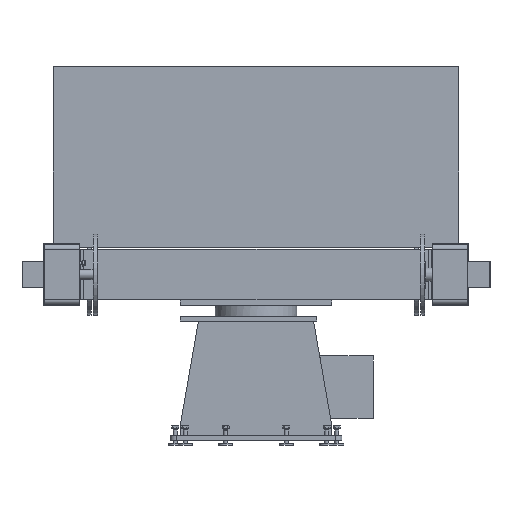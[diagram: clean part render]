
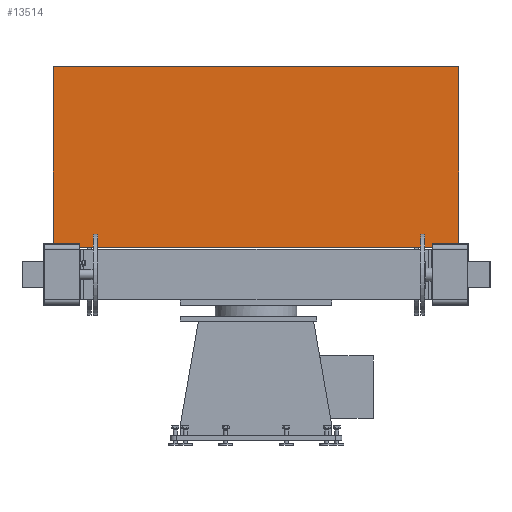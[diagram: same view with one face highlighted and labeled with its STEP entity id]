
A CAD part, front view. The second image highlights one B-rep face of the part: STEP entity #13514.
In plain terms, the highlighted planar face has unit normal (0, -1, 0) as drawn and (-1, 0, 0) by its records, which use the part's own axes.
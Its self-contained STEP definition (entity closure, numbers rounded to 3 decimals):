
#13097=CARTESIAN_POINT('',(-41.,-957.5,5.));
#13098=VERTEX_POINT('',#13097);
#13107=CARTESIAN_POINT('',(-41.,957.5,5.));
#13108=VERTEX_POINT('',#13107);
#13109=CARTESIAN_POINT('',(-41.,957.5,5.));
#13110=DIRECTION('',(0.0,-1.0,0.0));
#13111=VECTOR('',#13110,1915.0);
#13112=LINE('',#13109,#13111);
#13113=EDGE_CURVE('',#13108,#13098,#13112,.T.);
#13139=CARTESIAN_POINT('',(-41.,1002.5,899.));
#13140=VERTEX_POINT('',#13139);
#13155=CARTESIAN_POINT('',(-41.,1002.5,5.));
#13156=VERTEX_POINT('',#13155);
#13163=CARTESIAN_POINT('',(-41.,1002.5,899.));
#13164=DIRECTION('',(0.0,0.0,-1.0));
#13165=VECTOR('',#13164,894.);
#13166=LINE('',#13163,#13165);
#13167=EDGE_CURVE('',#13140,#13156,#13166,.T.);
#13221=CARTESIAN_POINT('',(-41.,957.5,5.));
#13222=DIRECTION('',(0.0,1.0,0.0));
#13223=VECTOR('',#13222,45.0);
#13224=LINE('',#13221,#13223);
#13225=EDGE_CURVE('',#13108,#13156,#13224,.T.);
#13456=CARTESIAN_POINT('',(-41.,-1002.5,899.));
#13457=VERTEX_POINT('',#13456);
#13466=CARTESIAN_POINT('',(-41.,-1002.5,5.));
#13467=VERTEX_POINT('',#13466);
#13468=CARTESIAN_POINT('',(-41.,-1002.5,5.));
#13469=DIRECTION('',(0.0,0.0,1.0));
#13470=VECTOR('',#13469,894.0);
#13471=LINE('',#13468,#13470);
#13472=EDGE_CURVE('',#13467,#13457,#13471,.T.);
#13491=CARTESIAN_POINT('',(-41.,-996.5,5.));
#13492=DIRECTION('',(-1.0,0.0,0.0));
#13493=DIRECTION('',(0.0,0.0,1.0));
#13494=AXIS2_PLACEMENT_3D('',#13491,#13492,#13493);
#13495=PLANE('',#13494);
#13496=CARTESIAN_POINT('',(-41.,1002.5,899.));
#13497=DIRECTION('',(0.0,-1.0,0.0));
#13498=VECTOR('',#13497,2005.);
#13499=LINE('',#13496,#13498);
#13500=EDGE_CURVE('',#13140,#13457,#13499,.T.);
#13501=ORIENTED_EDGE('',*,*,#13500,.F.);
#13502=ORIENTED_EDGE('',*,*,#13167,.T.);
#13503=ORIENTED_EDGE('',*,*,#13225,.F.);
#13504=ORIENTED_EDGE('',*,*,#13113,.T.);
#13505=CARTESIAN_POINT('',(-41.,-1002.5,5.));
#13506=DIRECTION('',(0.0,1.0,0.0));
#13507=VECTOR('',#13506,45.0);
#13508=LINE('',#13505,#13507);
#13509=EDGE_CURVE('',#13467,#13098,#13508,.T.);
#13510=ORIENTED_EDGE('',*,*,#13509,.F.);
#13511=ORIENTED_EDGE('',*,*,#13472,.T.);
#13512=EDGE_LOOP('',(#13501,#13502,#13503,#13504,#13510,#13511));
#13513=FACE_OUTER_BOUND('',#13512,.T.);
#13514=ADVANCED_FACE('',(#13513),#13495,.T.);
